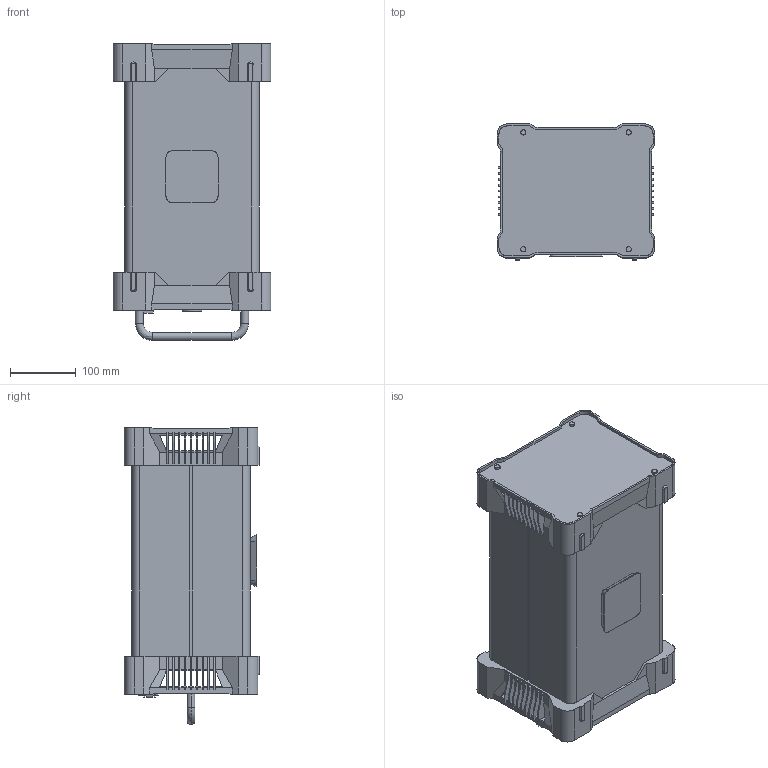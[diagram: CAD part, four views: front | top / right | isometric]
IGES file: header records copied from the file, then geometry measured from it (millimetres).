
Start section: SolidWorks IGES file using analytic representation for surfaces
Global section: file name: L:\30083\Odin - vereinfachtes Modell\Export\S360-PSU_3D.IGS; native system: SolidWorks 2016; preprocessor: SolidWorks 2016; author: huttner; date: 171115.130530; units: millimetre
Bounding box: 240 x 206 x 451 mm (x, y, z)
Surface area: 581833.9 mm2 (no closed solid volume)
Topology: 0 solids, 0 shells, 732 faces, 6426 edges, 6426 vertices
Faces by surface type: bspline 647, revolution 85
